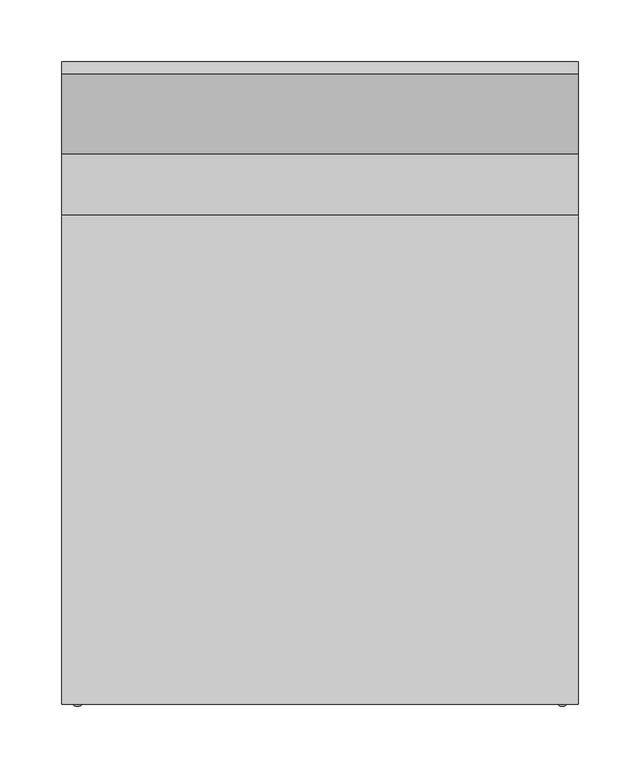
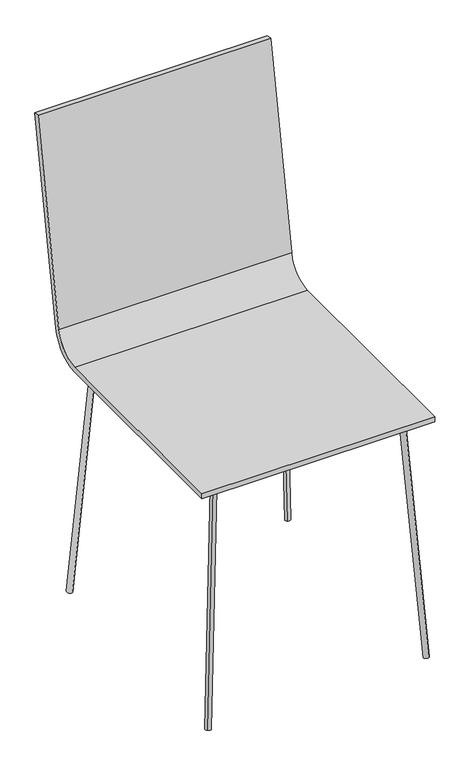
"""IFC4 building model written with IfcOpenShell, lengths in millimetres: furniture geometry, Chair - Allround : Chair - allround."""

from ifc_helpers import new_model, si_unit, point, frame, frame_2d, origin, place, context, project, spatial, polyline, circle_curve, ellipse_curve, trimmed, segment, composite_curve, outline, extrude, source, transform, mapped, element, save
from ifc_brep_helpers import plane_surface, cylinder_surface, advanced_brep


def furniture_56f83323(model_context):
    return source(origin(), model_context, "Body", "SolidModel", [
        extrude(outline(composite_curve([segment(trimmed(circle_curve(frame_2d((178.0450184, 510.0)), 50.0), [point((178.0450184, 460.0))], [point((227.2854061, 501.3175911))], True, "CARTESIAN"), True, "CONTINUOUS"), segment(polyline([(227.2854061, 501.3175911), (292.6002507, 871.7364818), (302.4483282, 870.0), (237.1334836, 499.5811093)]), True, "CONTINUOUS"), segment(trimmed(circle_curve(frame_2d((178.0450184, 510.0)), 60.0), [point((237.1334836, 499.5811093))], [point((178.0450184, 450.0))], False, "CARTESIAN"), True, "CONTINUOUS"), segment(polyline([(178.0450184, 450.0), (-220.0, 450.0), (-220.0, 460.0), (178.0450184, 460.0)]), True, "CONTINUOUS")], self_intersect=False)), frame((-210.0, 0.0, 0.0), z_axis=(1.0, 0.0, 0.0), x_axis=(0.0, 1.0, 0.0)), (0.0, 0.0, 1.0), 420.0),
        advanced_brep(
        [(193.5945364, 212.9539901, 3.638704), (200.2946701, 220.3241372, 4.5270398), (167.9581466, 184.7539613, 430.9609084), (174.1116432, 191.5228075, 440.9609084), (-167.9581466, -184.7539613, 430.9609084), (-174.1116432, -191.5228075, 440.9609084), (-193.5945364, -212.9539901, 3.638704), (-200.2946701, -220.3241372, 4.5270398)],
        [
            (0, 1, circle_curve(frame((196.9446033, 216.6390636, 4.0828719), z_axis=(0.059755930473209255, 0.06573152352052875, -0.9960464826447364), x_axis=(0.6700133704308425, 0.7370147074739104, 0.0888335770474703)), 5.0)),
            (1, 0, circle_curve(frame((196.9446033, 216.6390636, 4.0828719), z_axis=(0.059755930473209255, 0.06573152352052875, -0.9960464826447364), x_axis=(0.6700133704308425, 0.7370147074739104, 0.0888335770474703)), 5.0)),
            (0, 2),
            (2, 3, ellipse_curve(frame((171.0348949, 188.1383844, 435.9609084), z_axis=(0.4963289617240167, 0.5459618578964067, -0.6749690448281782), x_axis=(-0.45403331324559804, -0.49943664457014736, -0.7378460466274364)), 6.7764814, 5.0)),
            (3, 1),
            (3, 2, ellipse_curve(frame((171.0348949, 188.1383844, 435.9609084), z_axis=(0.4963289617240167, 0.5459618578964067, -0.6749690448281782), x_axis=(-0.45403331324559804, -0.49943664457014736, -0.7378460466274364)), 6.7764814, 5.0)),
            (2, 4),
            (4, 5, ellipse_curve(frame((-171.0348949, -188.1383844, 435.9609084), z_axis=(0.4963289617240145, 0.5459618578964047, 0.6749690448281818), x_axis=(0.4540333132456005, 0.49943664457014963, -0.7378460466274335)), 6.7764814, 5.0)),
            (5, 3),
            (5, 4, ellipse_curve(frame((-171.0348949, -188.1383844, 435.9609084), z_axis=(0.4963289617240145, 0.5459618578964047, 0.6749690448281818), x_axis=(0.4540333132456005, 0.49943664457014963, -0.7378460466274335)), 6.7764814, 5.0)),
            (6, 7, circle_curve(frame((-196.9446033, -216.6390636, 4.0828719), z_axis=(-0.059755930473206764, -0.06573152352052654, -0.9960464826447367), x_axis=(-0.6700133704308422, -0.7370147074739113, 0.088833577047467)), 5.0)),
            (7, 6, circle_curve(frame((-196.9446033, -216.6390636, 4.0828719), z_axis=(-0.059755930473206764, -0.06573152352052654, -0.9960464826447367), x_axis=(-0.6700133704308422, -0.7370147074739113, 0.088833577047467)), 5.0)),
            (4, 6),
            (7, 5),
        ],
        [
            plane_surface(frame((166.1501801, 182.7651981, 0.0), z_axis=(0.05975593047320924, 0.06573152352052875, -0.9960464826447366), x_axis=(-0.7399400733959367, 0.6726727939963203, 0.0))),
            cylinder_surface(frame((196.9446033, 216.6390636, 4.0828719), z_axis=(0.059755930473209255, 0.06573152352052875, -0.9960464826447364), x_axis=(0.6700133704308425, 0.7370147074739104, 0.0888335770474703)), 5.0),
            cylinder_surface(frame((142.7528655, 157.0281521, 435.9609084), z_axis=(0.6726727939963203, 0.7399400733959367, 0.0), x_axis=(0.0, 0.0, 1.0)), 5.0),
            plane_surface(frame((-166.1501801, -182.7651981, 0.0), z_axis=(-0.059755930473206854, -0.0657315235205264, -0.9960464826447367), x_axis=(-0.7399400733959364, 0.6726727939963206, 0.0))),
            cylinder_surface(frame((-173.5472887, -190.9020176, 394.0828719), z_axis=(0.05975593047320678, 0.06573152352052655, 0.9960464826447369), x_axis=(-0.6700133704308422, -0.7370147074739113, 0.088833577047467)), 5.0),
        ],
        [
            (0, [[1, 2]]),
            (1, [[-1, 3, 4, 5]]),
            (1, [[-2, -5, 6, -3]]),
            (2, [[-4, 7, 8, 9]]),
            (2, [[-6, -9, 10, -7]]),
            (3, [[11, 12]]),
            (4, [[-8, 13, -12, 14]]),
            (4, [[-10, -14, -11, -13]]),
        ],
    ),
        advanced_brep(
        [(-200.2946701, 220.3241372, 4.5270398), (-193.5945364, 212.9539901, 3.638704), (-174.1116432, 191.5228075, 440.9609084), (-167.9581466, 184.7539613, 430.9609084), (174.1116432, -191.5228075, 440.9609084), (167.9581466, -184.7539613, 430.9609084), (200.2946701, -220.3241372, 4.5270398), (193.5945364, -212.9539901, 3.638704)],
        [
            (0, 1, circle_curve(frame((-196.9446033, 216.6390636, 4.0828719), z_axis=(-0.059755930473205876, 0.06573152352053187, -0.9960464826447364), x_axis=(0.6700133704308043, -0.7370147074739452, -0.08883357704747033)), 5.0)),
            (1, 0, circle_curve(frame((-196.9446033, 216.6390636, 4.0828719), z_axis=(-0.059755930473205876, 0.06573152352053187, -0.9960464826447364), x_axis=(0.6700133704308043, -0.7370147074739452, -0.08883357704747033)), 5.0)),
            (0, 2),
            (2, 3, ellipse_curve(frame((-171.0348949, 188.1383844, 435.9609084), z_axis=(-0.4963289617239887, 0.5459618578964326, -0.6749690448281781), x_axis=(0.45403331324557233, -0.4994366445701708, -0.7378460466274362)), 6.7764814, 5.0)),
            (3, 1),
            (3, 2, ellipse_curve(frame((-171.0348949, 188.1383844, 435.9609084), z_axis=(-0.4963289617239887, 0.5459618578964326, -0.6749690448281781), x_axis=(0.45403331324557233, -0.4994366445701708, -0.7378460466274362)), 6.7764814, 5.0)),
            (2, 4),
            (4, 5, ellipse_curve(frame((171.0348949, -188.1383844, 435.9609084), z_axis=(-0.49632896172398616, 0.5459618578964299, 0.6749690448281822), x_axis=(-0.4540333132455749, 0.4994366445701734, -0.7378460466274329)), 6.7764814, 5.0)),
            (5, 3),
            (5, 4, ellipse_curve(frame((171.0348949, -188.1383844, 435.9609084), z_axis=(-0.49632896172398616, 0.5459618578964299, 0.6749690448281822), x_axis=(-0.4540333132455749, 0.4994366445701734, -0.7378460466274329)), 6.7764814, 5.0)),
            (6, 7, circle_curve(frame((196.9446033, -216.6390636, 4.0828719), z_axis=(0.05975593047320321, -0.06573152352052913, -0.9960464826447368), x_axis=(-0.6700133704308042, 0.7370147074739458, -0.08883357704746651)), 5.0)),
            (7, 6, circle_curve(frame((196.9446033, -216.6390636, 4.0828719), z_axis=(0.05975593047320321, -0.06573152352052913, -0.9960464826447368), x_axis=(-0.6700133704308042, 0.7370147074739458, -0.08883357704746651)), 5.0)),
            (4, 6),
            (7, 5),
        ],
        [
            plane_surface(frame((-166.1501801, 182.7651981, 0.0), z_axis=(-0.05975593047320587, 0.06573152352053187, -0.9960464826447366), x_axis=(0.7399400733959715, 0.6726727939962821, 0.0))),
            cylinder_surface(frame((-196.9446033, 216.6390636, 4.0828719), z_axis=(-0.059755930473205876, 0.06573152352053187, -0.9960464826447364), x_axis=(0.6700133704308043, -0.7370147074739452, -0.08883357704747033)), 5.0),
            cylinder_surface(frame((-142.7528655, 157.0281521, 435.9609084), z_axis=(-0.6726727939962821, 0.7399400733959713, 0.0), x_axis=(0.0, 0.0, -1.0)), 5.0),
            plane_surface(frame((166.1501801, -182.7651981, 0.0), z_axis=(0.0597559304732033, -0.06573152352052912, -0.9960464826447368), x_axis=(0.7399400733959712, 0.6726727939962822, 0.0))),
            cylinder_surface(frame((173.5472887, -190.9020176, 394.0828719), z_axis=(-0.05975593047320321, 0.06573152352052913, 0.9960464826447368), x_axis=(-0.6700133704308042, 0.7370147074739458, -0.08883357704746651)), 5.0),
        ],
        [
            (0, [[1, 2]]),
            (1, [[-1, 3, 4, 5]]),
            (1, [[-2, -5, 6, -3]]),
            (2, [[-4, 7, 8, 9]]),
            (2, [[-6, -9, 10, -7]]),
            (3, [[11, 12]]),
            (4, [[-8, 13, -12, 14]]),
            (4, [[-10, -14, -11, -13]]),
        ],
    ),
    ])


if __name__ == "__main__":
    model = new_model("IFC4")
    model_context = context("Model", 3, world=origin())
    ifc_project = project(units=[si_unit("LENGTHUNIT", "METRE", prefix="MILLI")], contexts=[model_context])
    site = spatial("IfcSite", under=ifc_project)
    building = spatial("IfcBuilding", under=site)
    placement = place(None, origin())
    furniture_shape = furniture_56f83323(model_context)
    element("IfcFurniture", 1, ObjectType="Chair - Allround : Chair - allround", at=placement, inside=building, context=model_context, shape_type="MappedRepresentation", body=[
        mapped(furniture_shape, transform((0.0, 0.0, 0.0), x_axis=(1.0, 0.0, 0.0), y_axis=(0.0, 1.0, 0.0), z_axis=(0.0, 0.0, 1.0))),
    ])
    save(model, "model.ifc")
